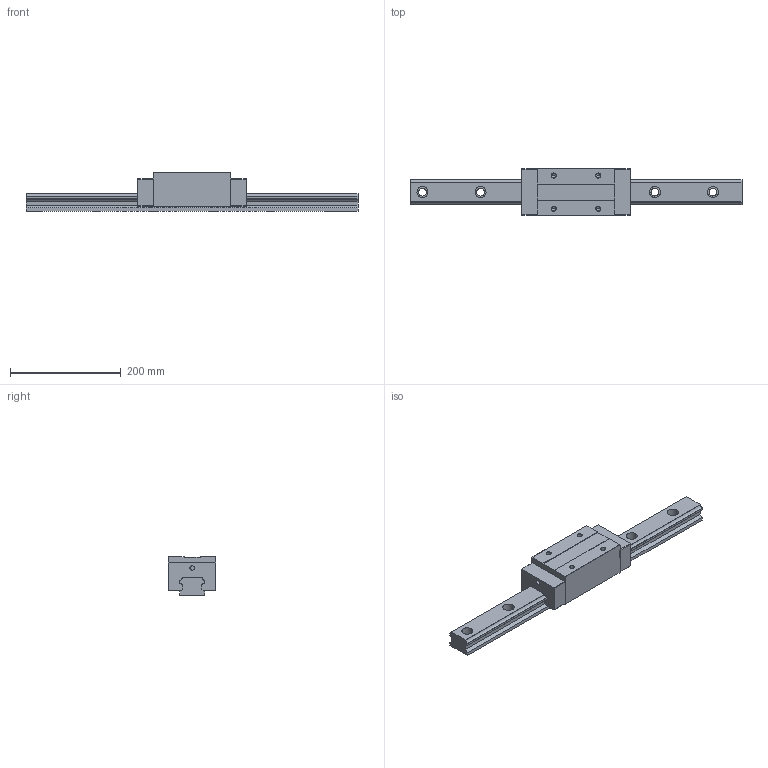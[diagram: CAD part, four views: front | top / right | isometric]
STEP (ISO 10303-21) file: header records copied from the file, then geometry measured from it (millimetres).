
FILE_DESCRIPTION (( 'STEP AP203' ), '1' );
FILE_NAME ('TRH45VE-WZ-§ï.STEP', '2023-08-29T07:26:40', ( '' ), ( '' ), 'SwSTEP 2.0', 'SolidWorks 2022', '' );
FILE_SCHEMA (( 'CONFIG_CONTROL_DESIGN' ));
Length unit declared in the file: millimetre
Products named in the file (1): TRH45VE-WZ-改
Bounding box: 600 x 85.5 x 70 mm (x, y, z)
Volume: 1494589.1 mm3; surface area: 173818.9 mm2
Topology: 1 solids, 1 shells, 165 faces, 452 edges, 290 vertices
Faces by surface type: plane 77, cylinder 72, cone 16
Entity records: 5293 total; most frequent: DIRECTION 930, CARTESIAN_POINT 900, ORIENTED_EDGE 888, EDGE_CURVE 444, AXIS2_PLACEMENT_3D 320, VERTEX_POINT 290, VECTOR 290, LINE 290
